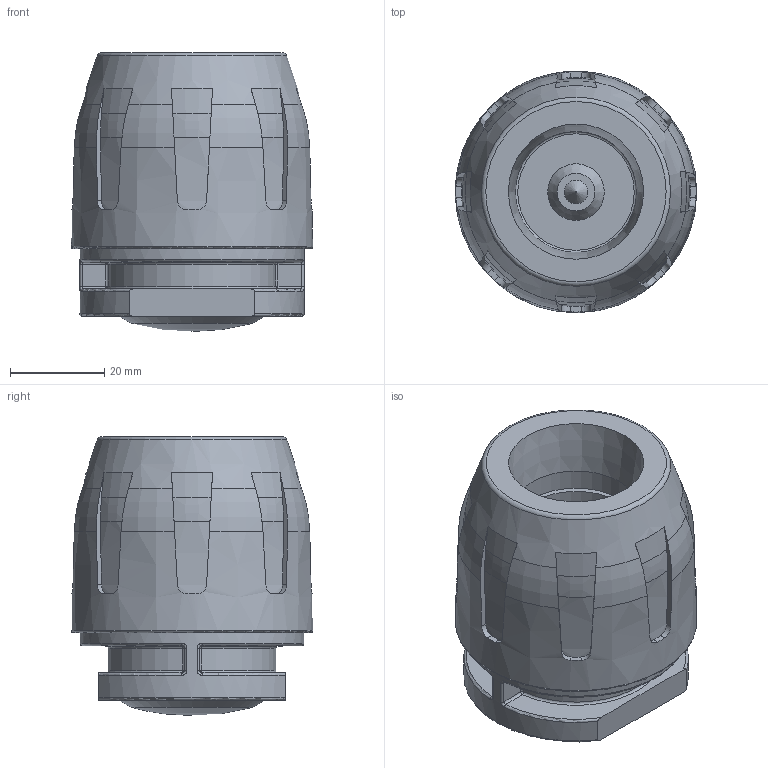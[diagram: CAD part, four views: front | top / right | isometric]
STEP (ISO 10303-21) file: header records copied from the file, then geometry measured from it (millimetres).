
FILE_DESCRIPTION( ( 'STEP AP214' ), '1' );
FILE_NAME( ' ', ' ', ( ' ' ), ( ' ' ), 'PSStep 11.0', 'VISI 17.0', ' ' );
FILE_SCHEMA( ( 'AUTOMOTIVE_DESIGN { 1 0 10303 214 1 1 1 1 }' ) );
Length unit declared in the file: millimetre
Products named in the file (2): 1; 2
Bounding box: 51.18 x 51.17 x 59.13 mm (x, y, z)
Volume: 71025.4 mm3; surface area: 26754.4 mm2
Topology: 2 solids, 2 shells, 265 faces, 717 edges, 465 vertices
Faces by surface type: plane 115, cone 53, cylinder 35, bspline 32, torus 21, sphere 9
Full cylindrical faces by diameter (mm): 25.7 x2, 37.774 x1, 38.2 x1, 39.2 x1, 41.7 x1, 42.6 x1, 47.6 x1, 48.6 x1
Entity records: 12755 total; most frequent: CARTESIAN_POINT 4511, ORIENTED_EDGE 1338, DIRECTION 1190, EDGE_CURVE 669, AXIS2_PLACEMENT_3D 520, VERTEX_POINT 445, EDGE_LOOP 304, FACE_OUTER_BOUND 283
